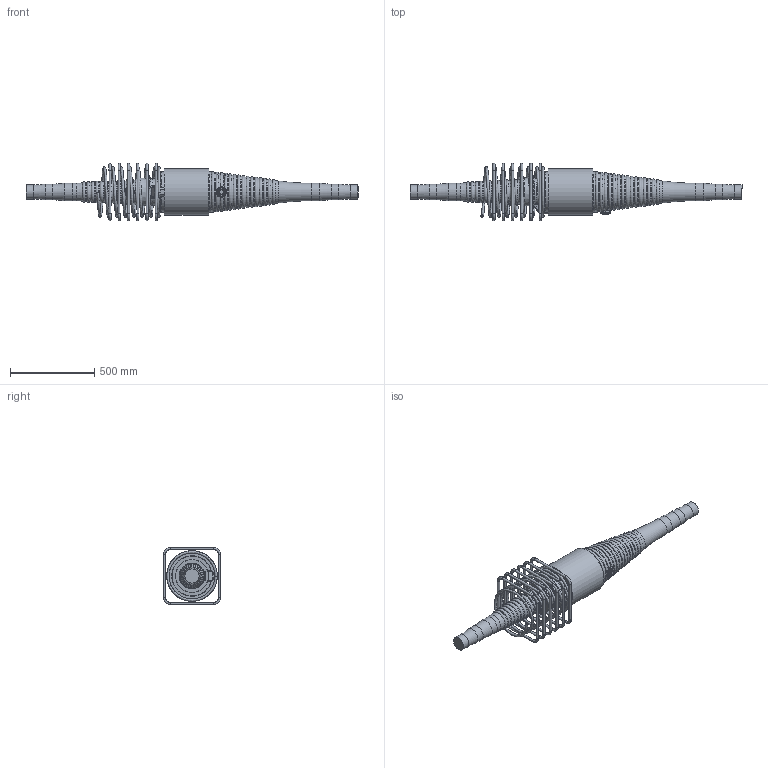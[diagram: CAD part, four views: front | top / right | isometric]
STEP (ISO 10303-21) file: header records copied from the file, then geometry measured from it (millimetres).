
FILE_DESCRIPTION(/* description */ (''),/* implementation_level */ '2;1');
FILE_NAME(/* name */ 'BBR VT CONA CMI BT 1306_Coupler H Assembly_CS-34,28.stp',/* time_stamp */ '2025-05-09T07:55:55+02:00',/* author */ ('tk'),/* organization */ (''),/* preprocessor_version */ 'ST-DEVELOPER v20',/* originating_system */ 'Autodesk Inventor 2024',/* authorisation */ '');
FILE_SCHEMA (('AUTOMOTIVE_DESIGN { 1 0 10303 214 3 1 1 }'));
Products named in the file (1): BBR VT CONA CMI BT 1306_Coupler H Assembly_CS-34,28
Bounding box: 1970.13 x 340 x 340 mm (x, y, z)
Volume: 44528806.8 mm3; surface area: 1732696.5 mm2
Topology: 8 solids, 8 shells, 1005 faces, 2681 edges, 1739 vertices
Faces by surface type: bspline 442, plane 272, torus 132, cylinder 116, cone 33, sphere 10
Full cylindrical faces by diameter (mm): 14 x24, 34 x2, 57 x2, 84 x2, 94 x2, 104 x2, 192.529 x1, 197.205 x1, 273 x1
Entity records: 46781 total; most frequent: CARTESIAN_POINT 23679, ORIENTED_EDGE 5342, DIRECTION 3707, EDGE_CURVE 2671, VERTEX_POINT 1739, AXIS2_PLACEMENT_3D 1356, EDGE_LOOP 1076, FACE_OUTER_BOUND 1005
